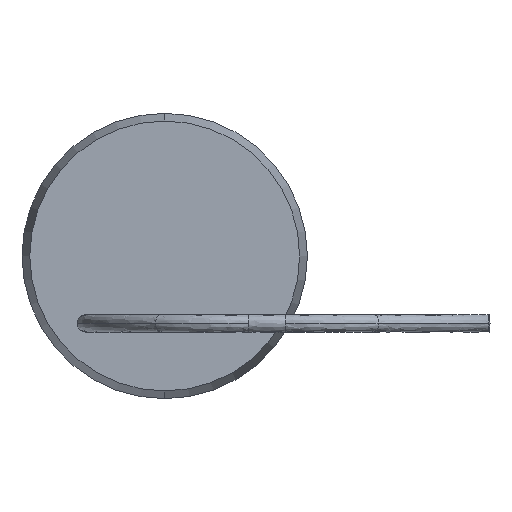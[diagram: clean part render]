
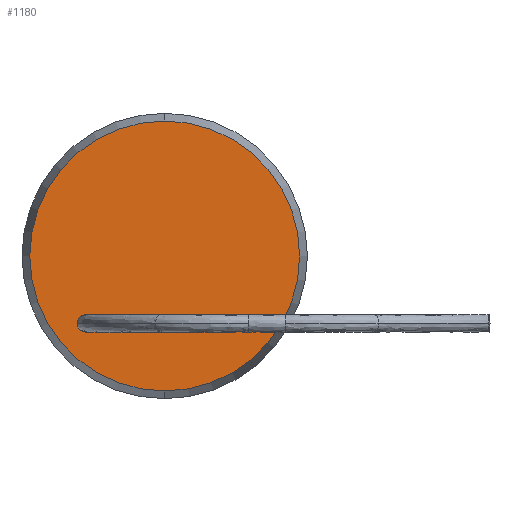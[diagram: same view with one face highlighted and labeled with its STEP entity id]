
A CAD part, left-side view. The second image highlights one B-rep face of the part: STEP entity #1180.
In plain terms, the highlighted planar face has unit normal (-1, 0, 0).
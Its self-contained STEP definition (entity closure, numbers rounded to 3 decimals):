
#294 = VERTEX_POINT ( 'NONE', #3165 ) ;
#349 = VERTEX_POINT ( 'NONE', #3524 ) ;
#542 = EDGE_CURVE ( 'NONE', #7201, #294, #4461, .T. ) ;
#622 = VERTEX_POINT ( 'NONE', #5018 ) ;
#630 = VERTEX_POINT ( 'NONE', #5043 ) ;
#858 = EDGE_CURVE ( 'NONE', #630, #995, #6136, .T. ) ;
#995 = VERTEX_POINT ( 'NONE', #6695 ) ;
#1104 = EDGE_CURVE ( 'NONE', #349, #622, #7267, .T. ) ;
#1152 = EDGE_CURVE ( 'NONE', #294, #7201, #7507, .T. ) ;
#1180 = ADVANCED_FACE ( 'NONE', ( #7634, #7635, #7636, #7637 ), #7638, .F. ) ;
#1231 = EDGE_LOOP ( 'NONE', ( #3476, #3896 ) ) ;
#1475 = VERTEX_POINT ( 'NONE', #2597 ) ;
#1600 = EDGE_CURVE ( 'NONE', #622, #349, #2731, .T. ) ;
#2597 = CARTESIAN_POINT ( 'NONE',  ( 0., -2.54, -4.05 ) ) ;
#2731 = CIRCLE ( 'NONE', #2732, 9.314 ) ;
#2732 = AXIS2_PLACEMENT_3D ( 'NONE', #2736, #2737, #2738 ) ;
#2736 = CARTESIAN_POINT ( 'NONE',  ( 0., 0., 0. ) ) ;
#2737 = DIRECTION ( 'NONE',  ( 1., 0., 0. ) ) ;
#2738 = DIRECTION ( 'NONE',  ( 0., 0., -1. ) ) ;
#3165 = CARTESIAN_POINT ( 'NONE',  ( 0., 0., -4.05 ) ) ;
#3252 = ORIENTED_EDGE ( 'NONE', *, *, #1600, .F. ) ;
#3476 = ORIENTED_EDGE ( 'NONE', *, *, #858, .F. ) ;
#3524 = CARTESIAN_POINT ( 'NONE',  ( 0., 0., -9.314 ) ) ;
#3573 = ORIENTED_EDGE ( 'NONE', *, *, #542, .F. ) ;
#3747 = EDGE_CURVE ( 'NONE', #995, #630, #4118, .T. ) ;
#3805 = EDGE_LOOP ( 'NONE', ( #4253, #7202 ) ) ;
#3896 = ORIENTED_EDGE ( 'NONE', *, *, #3747, .F. ) ;
#4118 = CIRCLE ( 'NONE', #4119, 0.6 ) ;
#4119 = AXIS2_PLACEMENT_3D ( 'NONE', #4120, #4121, #4122 ) ;
#4120 = CARTESIAN_POINT ( 'NONE',  ( 0., 2.54, -4.65 ) ) ;
#4121 = DIRECTION ( 'NONE',  ( -1., 0., 0. ) ) ;
#4122 = DIRECTION ( 'NONE',  ( 0., 0., 1. ) ) ;
#4142 = EDGE_LOOP ( 'NONE', ( #4603, #3573 ) ) ;
#4253 = ORIENTED_EDGE ( 'NONE', *, *, #4605, .T. ) ;
#4461 = CIRCLE ( 'NONE', #4462, 0.6 ) ;
#4462 = AXIS2_PLACEMENT_3D ( 'NONE', #4463, #4464, #4465 ) ;
#4463 = CARTESIAN_POINT ( 'NONE',  ( 0., 0., -4.65 ) ) ;
#4464 = DIRECTION ( 'NONE',  ( -1., 0., 0. ) ) ;
#4465 = DIRECTION ( 'NONE',  ( 0., 0., 1. ) ) ;
#4546 = VERTEX_POINT ( 'NONE', #4896 ) ;
#4603 = ORIENTED_EDGE ( 'NONE', *, *, #1152, .F. ) ;
#4605 = EDGE_CURVE ( 'NONE', #1475, #4546, #4951, .T. ) ;
#4896 = CARTESIAN_POINT ( 'NONE',  ( 0., -2.54, -5.25 ) ) ;
#4951 = CIRCLE ( 'NONE', #4952, 0.6 ) ;
#4952 = AXIS2_PLACEMENT_3D ( 'NONE', #4953, #4954, #4955 ) ;
#4953 = CARTESIAN_POINT ( 'NONE',  ( 0., -2.54, -4.65 ) ) ;
#4954 = DIRECTION ( 'NONE',  ( 1., 0., 0. ) ) ;
#4955 = DIRECTION ( 'NONE',  ( 0., 0., 1. ) ) ;
#5018 = CARTESIAN_POINT ( 'NONE',  ( 0., 0., 9.314 ) ) ;
#5043 = CARTESIAN_POINT ( 'NONE',  ( 0., 2.54, -4.05 ) ) ;
#6136 = CIRCLE ( 'NONE', #6137, 0.6 ) ;
#6137 = AXIS2_PLACEMENT_3D ( 'NONE', #6138, #6140, #6141 ) ;
#6138 = CARTESIAN_POINT ( 'NONE',  ( 0., 2.54, -4.65 ) ) ;
#6140 = DIRECTION ( 'NONE',  ( -1., 0., 0. ) ) ;
#6141 = DIRECTION ( 'NONE',  ( 0., 0., 1. ) ) ;
#6669 = CARTESIAN_POINT ( 'NONE',  ( 0., 0., -5.25 ) ) ;
#6695 = CARTESIAN_POINT ( 'NONE',  ( 0., 2.54, -5.25 ) ) ;
#7201 = VERTEX_POINT ( 'NONE', #6669 ) ;
#7202 = ORIENTED_EDGE ( 'NONE', *, *, #8031, .T. ) ;
#7240 = CIRCLE ( 'NONE', #7241, 0.6 ) ;
#7241 = AXIS2_PLACEMENT_3D ( 'NONE', #7242, #7243, #7244 ) ;
#7242 = CARTESIAN_POINT ( 'NONE',  ( 0., -2.54, -4.65 ) ) ;
#7243 = DIRECTION ( 'NONE',  ( 1., 0., 0. ) ) ;
#7244 = DIRECTION ( 'NONE',  ( 0., 0., 1. ) ) ;
#7267 = CIRCLE ( 'NONE', #7268, 9.314 ) ;
#7268 = AXIS2_PLACEMENT_3D ( 'NONE', #7269, #7273, #7274 ) ;
#7269 = CARTESIAN_POINT ( 'NONE',  ( 0., 0., 0. ) ) ;
#7273 = DIRECTION ( 'NONE',  ( 1., 0., 0. ) ) ;
#7274 = DIRECTION ( 'NONE',  ( 0., 0., -1. ) ) ;
#7386 = EDGE_LOOP ( 'NONE', ( #7828, #3252 ) ) ;
#7507 = CIRCLE ( 'NONE', #7508, 0.6 ) ;
#7508 = AXIS2_PLACEMENT_3D ( 'NONE', #7509, #7510, #7511 ) ;
#7509 = CARTESIAN_POINT ( 'NONE',  ( 0., 0., -4.65 ) ) ;
#7510 = DIRECTION ( 'NONE',  ( -1., 0., 0. ) ) ;
#7511 = DIRECTION ( 'NONE',  ( 0., 0., 1. ) ) ;
#7634 = FACE_BOUND ( 'NONE', #1231, .T. ) ;
#7635 = FACE_BOUND ( 'NONE', #4142, .T. ) ;
#7636 = FACE_BOUND ( 'NONE', #3805, .T. ) ;
#7637 = FACE_OUTER_BOUND ( 'NONE', #7386, .T. ) ;
#7638 = PLANE ( 'NONE',  #7639 ) ;
#7639 = AXIS2_PLACEMENT_3D ( 'NONE', #7640, #7641, #7642 ) ;
#7640 = CARTESIAN_POINT ( 'NONE',  ( 0., 9.687, 9.687 ) ) ;
#7641 = DIRECTION ( 'NONE',  ( 1., 0., 0. ) ) ;
#7642 = DIRECTION ( 'NONE',  ( 0., -1., 0. ) ) ;
#7828 = ORIENTED_EDGE ( 'NONE', *, *, #1104, .F. ) ;
#8031 = EDGE_CURVE ( 'NONE', #4546, #1475, #7240, .T. ) ;
